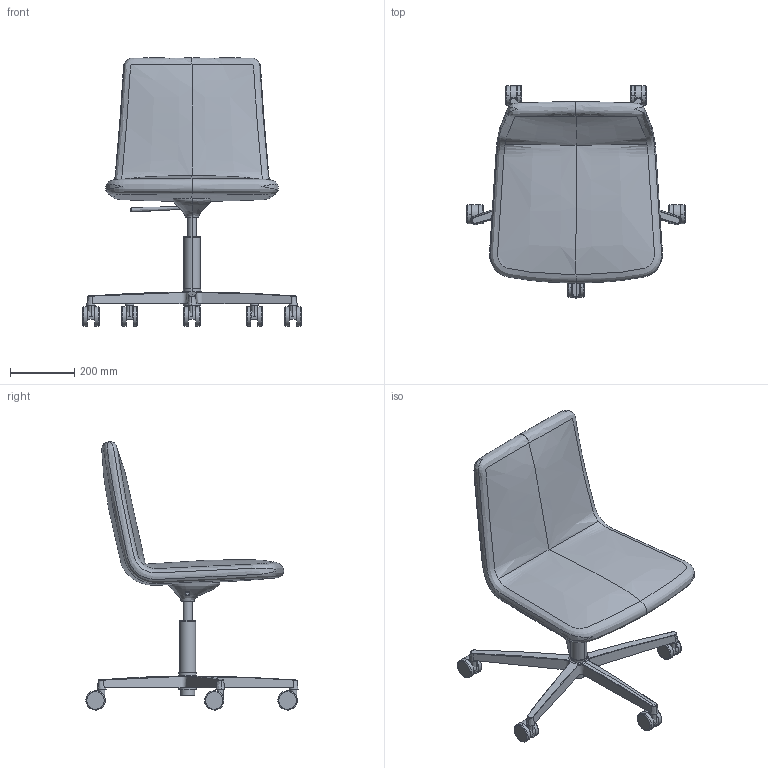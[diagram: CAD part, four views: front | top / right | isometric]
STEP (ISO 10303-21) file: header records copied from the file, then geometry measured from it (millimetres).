
FILE_DESCRIPTION(/* description */ (''),/* implementation_level */ '2;1');
FILE_NAME(/* name */ 'HA28E4~1',/* time_stamp */ '2016-07-26T15:55:11+02:00',/* author */ (''),/* organization */ (''),/* preprocessor_version */ 'ST-DEVELOPER v15',/* originating_system */ '',/* authorisation */ '');
FILE_SCHEMA (('CONFIG_CONTROL_DESIGN'));
Length unit declared in the file: millimetre
Products named in the file (1): Document
Bounding box: 677.7 x 659.5 x 833.76 mm (x, y, z)
Volume: 188724.9 mm3; surface area: 1237543.2 mm2
Topology: 5 solids, 31 shells, 155 faces, 334 edges, 216 vertices
Faces by surface type: bspline 120, plane 35
Entity records: 13334 total; most frequent: CARTESIAN_POINT 11360, ORIENTED_EDGE 585, EDGE_CURVE 331, VERTEX_POINT 210, EDGE_LOOP 157, ADVANCED_FACE 155, FACE_OUTER_BOUND 155, B_SPLINE_CURVE_WITH_KNOTS 84
